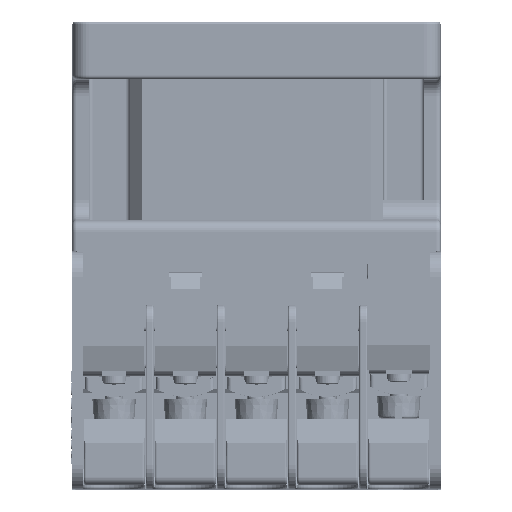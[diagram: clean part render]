
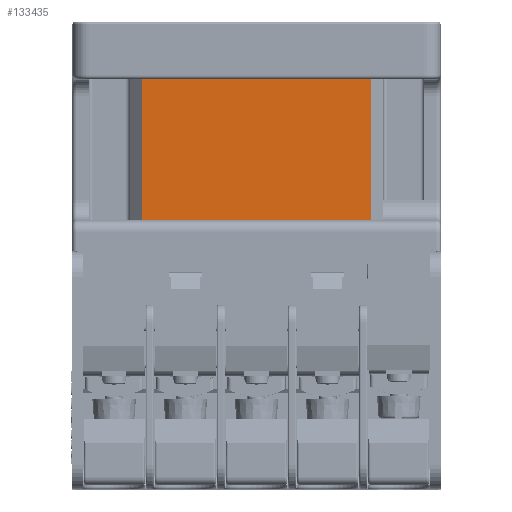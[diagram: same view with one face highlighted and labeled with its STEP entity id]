
A CAD part, top view. The second image highlights one B-rep face of the part: STEP entity #133435.
In plain terms, the highlighted planar face has unit normal (0, 0, 1) as drawn and (0, 1, 0) by its records, which use the part's own axes.
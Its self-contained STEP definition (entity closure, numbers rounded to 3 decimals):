
#10218 = EDGE_LOOP ( 'NONE', ( #26967, #205854, #123798, #21082 ) ) ;
#21082 = ORIENTED_EDGE ( 'NONE', *, *, #110174, .F. ) ;
#26967 = ORIENTED_EDGE ( 'NONE', *, *, #217968, .T. ) ;
#39318 = VERTEX_POINT ( 'NONE', #95607 ) ;
#62144 = CARTESIAN_POINT ( 'NONE',  ( 33., 47., 7. ) ) ;
#63516 = DIRECTION ( 'NONE',  ( 0., 1., 0. ) ) ;
#71120 = EDGE_CURVE ( 'NONE', #39318, #167551, #244607, .T. ) ;
#73123 = EDGE_CURVE ( 'NONE', #150922, #39318, #100473, .T. ) ;
#74666 = LINE ( 'NONE', #120094, #272256 ) ;
#80483 = VECTOR ( 'NONE', #248517, 1000. ) ;
#85720 = CARTESIAN_POINT ( 'NONE',  ( 3.5, 47., 7. ) ) ;
#95607 = CARTESIAN_POINT ( 'NONE',  ( 31.5, 47., 7. ) ) ;
#99438 = DIRECTION ( 'NONE',  ( 1., 0., 0. ) ) ;
#100473 = LINE ( 'NONE', #216537, #113155 ) ;
#110174 = EDGE_CURVE ( 'NONE', #203511, #167551, #123274, .T. ) ;
#113155 = VECTOR ( 'NONE', #241245, 1000. ) ;
#120094 = CARTESIAN_POINT ( 'NONE',  ( 3.5, 47., 24.2 ) ) ;
#123274 = LINE ( 'NONE', #142578, #80483 ) ;
#123798 = ORIENTED_EDGE ( 'NONE', *, *, #71120, .T. ) ;
#133435 = ADVANCED_FACE ( 'NONE', ( #188770 ), #230052, .T. ) ;
#142578 = CARTESIAN_POINT ( 'NONE',  ( 3.5, 47., 24.2 ) ) ;
#150922 = VERTEX_POINT ( 'NONE', #247654 ) ;
#160418 = CARTESIAN_POINT ( 'NONE',  ( 3.5, 47., 24.2 ) ) ;
#167551 = VERTEX_POINT ( 'NONE', #85720 ) ;
#175873 = CARTESIAN_POINT ( 'NONE',  ( 31.5, 47., 7. ) ) ;
#188770 = FACE_OUTER_BOUND ( 'NONE', #10218, .T. ) ;
#195908 = VECTOR ( 'NONE', #200605, 1000. ) ;
#200605 = DIRECTION ( 'NONE',  ( -1., 0., 0. ) ) ;
#203511 = VERTEX_POINT ( 'NONE', #160418 ) ;
#205854 = ORIENTED_EDGE ( 'NONE', *, *, #73123, .T. ) ;
#209407 = DIRECTION ( 'NONE',  ( 0., 0., -1. ) ) ;
#216537 = CARTESIAN_POINT ( 'NONE',  ( 31.5, 47., 24.2 ) ) ;
#217968 = EDGE_CURVE ( 'NONE', #203511, #150922, #74666, .T. ) ;
#230052 = PLANE ( 'NONE',  #242813 ) ;
#241245 = DIRECTION ( 'NONE',  ( 0., 0., -1. ) ) ;
#242813 = AXIS2_PLACEMENT_3D ( 'NONE', #62144, #63516, #209407 ) ;
#244607 = LINE ( 'NONE', #175873, #195908 ) ;
#247654 = CARTESIAN_POINT ( 'NONE',  ( 31.5, 47., 24.2 ) ) ;
#248517 = DIRECTION ( 'NONE',  ( 0., 0., -1. ) ) ;
#272256 = VECTOR ( 'NONE', #99438, 1000. ) ;
